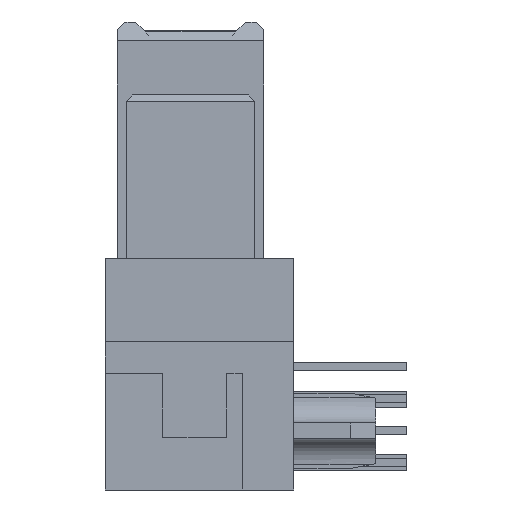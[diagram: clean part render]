
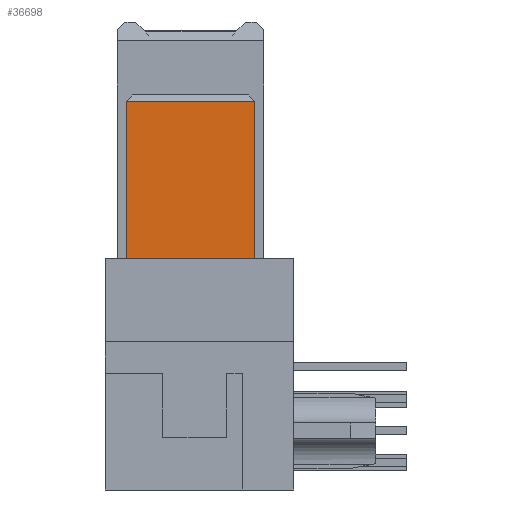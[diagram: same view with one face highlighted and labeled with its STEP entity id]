
A CAD part, left-side view. The second image highlights one B-rep face of the part: STEP entity #36698.
In plain terms, the highlighted planar face has unit normal (-1, 0, 0).
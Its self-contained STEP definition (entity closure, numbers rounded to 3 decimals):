
#4433=DIRECTION('',(0.,-1.,0.));
#4434=VECTOR('',#4433,5.1);
#4435=CARTESIAN_POINT('',(-73.8,2.55,0.));
#4436=LINE('',#4435,#4434);
#10001=DIRECTION('',(0.,0.,1.));
#10002=VECTOR('',#10001,6.25);
#10003=CARTESIAN_POINT('',(-73.8,-2.55,0.));
#10004=LINE('',#10003,#10002);
#10013=DIRECTION('',(0.,-1.,0.));
#10014=VECTOR('',#10013,5.1);
#10015=CARTESIAN_POINT('',(-73.8,2.55,6.25));
#10016=LINE('',#10015,#10014);
#10017=DIRECTION('',(0.,0.,1.));
#10018=VECTOR('',#10017,6.25);
#10019=CARTESIAN_POINT('',(-73.8,2.55,0.));
#10020=LINE('',#10019,#10018);
#19797=CARTESIAN_POINT('',(-73.8,2.55,0.));
#19798=CARTESIAN_POINT('',(-73.8,-2.55,0.));
#19799=VERTEX_POINT('',#19797);
#19800=VERTEX_POINT('',#19798);
#19827=CARTESIAN_POINT('',(-73.8,2.55,6.25));
#19828=CARTESIAN_POINT('',(-73.8,-2.55,6.25));
#19829=VERTEX_POINT('',#19827);
#19830=VERTEX_POINT('',#19828);
#36686=CARTESIAN_POINT('',(-73.8,2.55,0.));
#36687=DIRECTION('',(-1.,0.,0.));
#36688=DIRECTION('',(0.,-1.,0.));
#36689=AXIS2_PLACEMENT_3D('',#36686,#36687,#36688);
#36690=PLANE('',#36689);
#36691=ORIENTED_EDGE('',*,*,#36676,.T.);
#36692=ORIENTED_EDGE('',*,*,#36651,.F.);
#36693=ORIENTED_EDGE('',*,*,#27956,.F.);
#36695=ORIENTED_EDGE('',*,*,#36694,.T.);
#36696=EDGE_LOOP('',(#36691,#36692,#36693,#36695));
#36697=FACE_OUTER_BOUND('',#36696,.F.);
#36698=ADVANCED_FACE('',(#36697),#36690,.T.);
#27956=EDGE_CURVE('',#19799,#19800,#4436,.T.);
#36651=EDGE_CURVE('',#19800,#19830,#10004,.T.);
#36676=EDGE_CURVE('',#19829,#19830,#10016,.T.);
#36694=EDGE_CURVE('',#19799,#19829,#10020,.T.);
